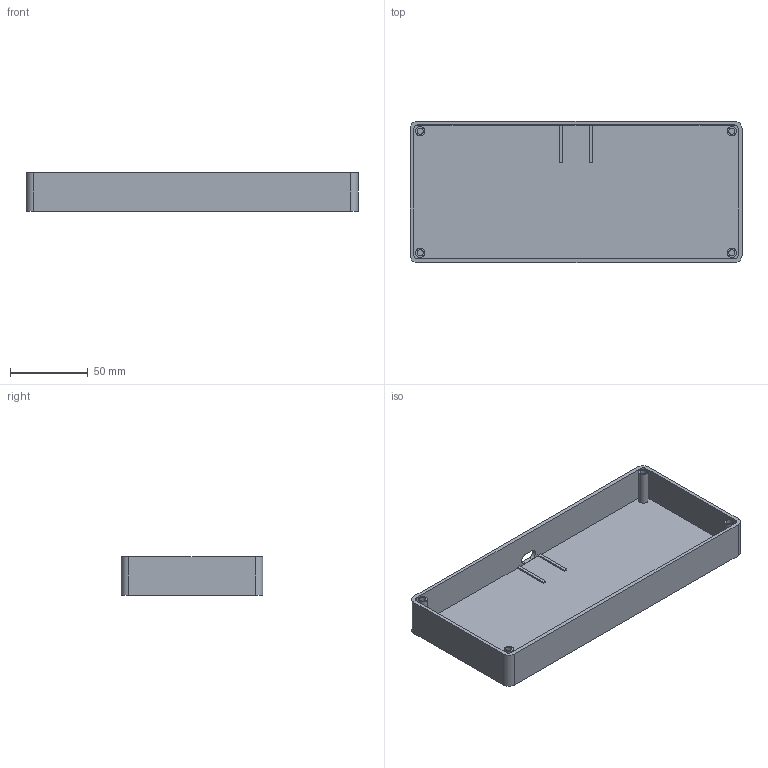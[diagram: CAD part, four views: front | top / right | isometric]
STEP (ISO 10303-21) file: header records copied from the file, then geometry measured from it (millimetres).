
FILE_DESCRIPTION(('Open CASCADE Model'),'2;1');
FILE_NAME('Open CASCADE Shape Model','2026-10-18T12:33:33',('Author'),( 'Open CASCADE'),'Open CASCADE STEP processor 7.9','Open CASCADE 7.9' ,'Unknown');
FILE_SCHEMA(('AUTOMOTIVE_DESIGN { 1 0 10303 214 1 1 1 1 }'));
Length unit declared in the file: millimetre
Products named in the file (1): Open CASCADE STEP translator 7.9 1
Bounding box: 213 x 91 x 24.4 mm (x, y, z)
Volume: 73927.3 mm3; surface area: 68546.1 mm2
Topology: 1 solids, 1 shells, 158 faces, 408 edges, 272 vertices
Faces by surface type: plane 85, extrusion 55, cylinder 18
Full cylindrical faces by diameter (mm): 4 x4, 6 x4
Entity records: 10159 total; most frequent: CARTESIAN_POINT 2249, DIRECTION 1274, VECTOR 961, LINE 906, ORIENTED_EDGE 816, PCURVE 816, DEFINITIONAL_REPRESENTATION 816, EDGE_CURVE 408
